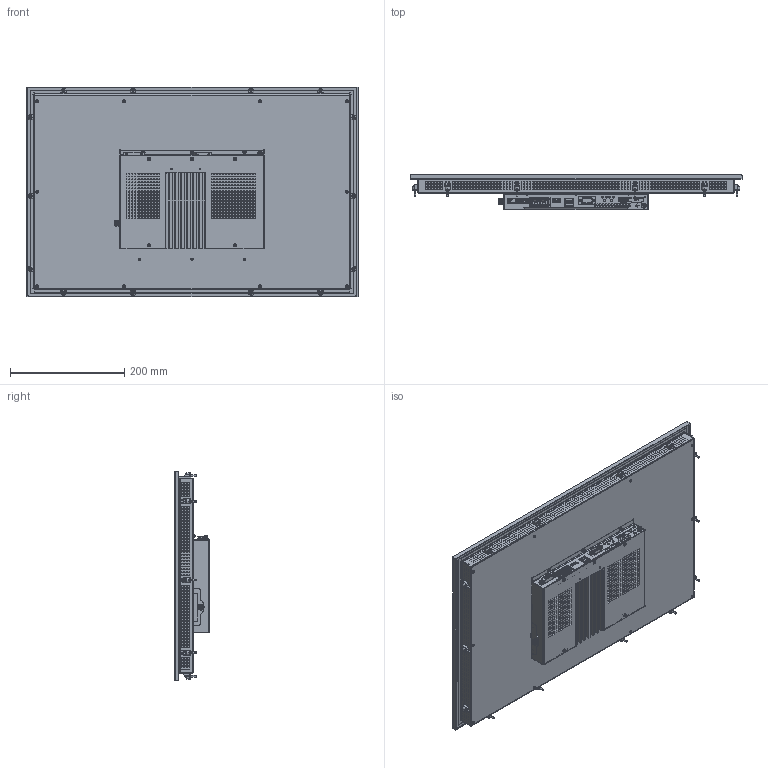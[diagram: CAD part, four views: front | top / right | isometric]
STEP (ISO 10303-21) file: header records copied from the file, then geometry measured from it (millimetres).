
FILE_DESCRIPTION((''),'2;1');
FILE_NAME('C6E22-Panel_215W_CAP_SL','2017-03-07T',('manpal'),(''),'PRO/ENGINEER BY PARAMETRIC TECHNOLOGY CORPORATION, 2013410','PRO/ENGINEER BY PARAMETRIC TECHNOLOGY CORPORATION, 2013410','');
FILE_SCHEMA(('AUTOMOTIVE_DESIGN { 1 0 10303 214 1 1 1 1 }'));
Products named in the file (2): C6E22-Panel_215W_CAP_SL_
Assembly tree (1 placements, depth 2):
  C6E22-Panel_215W_CAP_SL_
    C6E22-Panel_215W_CAP_SL_
Bounding box: 581.5 x 61.8 x 367.5 mm (x, y, z)
Surface area: 1136270.8 mm2 (no closed solid volume)
Topology: 0 solids, 400 shells, 4512 faces, 21268 edges, 16978 vertices
Faces by surface type: plane 3470, cylinder 659, cone 204, bspline 119, torus 31, sphere 27, extrusion 2
Entity records: 240138 total; most frequent: CARTESIAN_POINT 54226, DIRECTION 31895, ORIENTED_EDGE 29495, EDGE_CURVE 21226, VECTOR 17021, LINE 17019, VERTEX_POINT 16978, AXIS2_PLACEMENT_3D 7437
